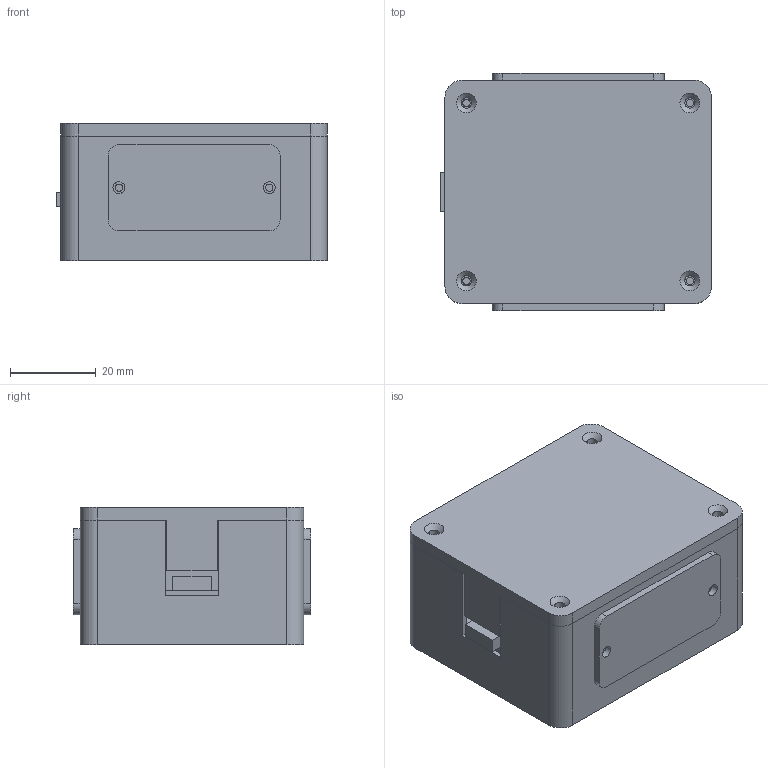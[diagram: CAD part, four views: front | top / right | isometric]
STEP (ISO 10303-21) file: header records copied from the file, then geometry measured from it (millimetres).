
FILE_DESCRIPTION(('Open CASCADE Model'),'2;1');
FILE_NAME('Open CASCADE Shape Model','2026-11-08T21:30:44',('Author'),( 'Open CASCADE'),'Open CASCADE STEP processor 7.8','Open CASCADE 7.8' ,'Unknown');
FILE_SCHEMA(('AUTOMOTIVE_DESIGN { 1 0 10303 214 1 1 1 1 }'));
Length unit declared in the file: millimetre
Products named in the file (11): Enveloppes_nominales_non_imprimables; socle; couvercle; support_LED_avant; support_LED_arriere; diffuseur_avant; diffuseur_arriere; carte_nominale; USB_nominal; ruban_LED_avant_nominal; ruban_LED_arriere_nominal
Assembly tree (10 placements, depth 2):
  Enveloppes_nominales_non_imprimables
    socle
    couvercle
    support_LED_avant
    support_LED_arriere
    diffuseur_avant
    diffuseur_arriere
    carte_nominale
    USB_nominal
    ruban_LED_avant_nominal
    ruban_LED_arriere_nominal
Bounding box: 63 x 55.2 x 32 mm (x, y, z)
Volume: 38384.1 mm3; surface area: 38314.5 mm2
Topology: 10 solids, 10 shells, 322 faces, 818 edges, 544 vertices
Faces by surface type: plane 240, cylinder 78, cone 4
Full cylindrical faces by diameter (mm): 1.7 x10, 2 x2, 2.4 x4, 2.8 x4, 5 x2, 5.6 x4
Entity records: 20344 total; most frequent: CARTESIAN_POINT 4048, DIRECTION 2876, LINE 1771, VECTOR 1771, ORIENTED_EDGE 1636, PCURVE 1636, DEFINITIONAL_REPRESENTATION 1636, EDGE_CURVE 818
